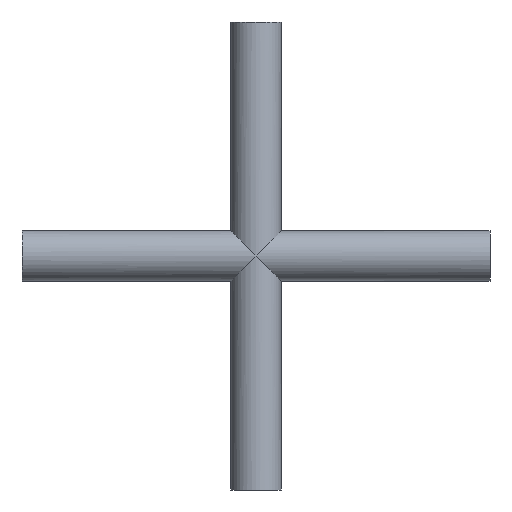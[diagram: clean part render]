
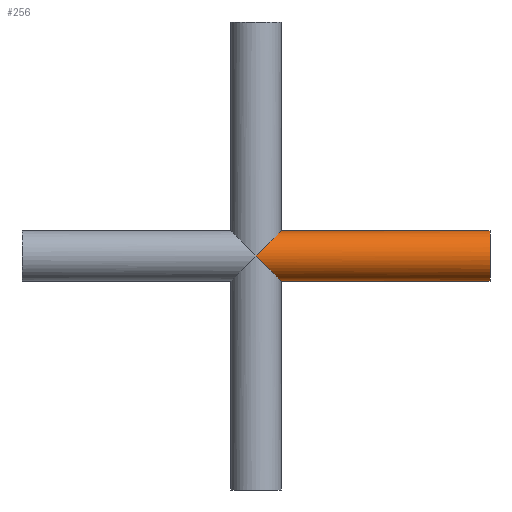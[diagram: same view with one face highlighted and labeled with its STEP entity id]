
A CAD part, front view. The second image highlights one B-rep face of the part: STEP entity #256.
In plain terms, the highlighted cylindrical face has radius 4.763 mm (diameter 9.525 mm), a partial arc.
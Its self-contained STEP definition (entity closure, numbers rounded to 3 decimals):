
#13 = CYLINDRICAL_SURFACE ( 'NONE', #574, 4.763 ) ;
#33 = CARTESIAN_POINT ( 'NONE',  ( 4.762, -2.79, 4.762 ) ) ;
#34 = VERTEX_POINT ( 'NONE', #644 ) ;
#35 = CARTESIAN_POINT ( 'NONE',  ( 4.763, 0., 4.763 ) ) ;
#66 = CARTESIAN_POINT ( 'NONE',  ( -44.45, 0., 4.763 ) ) ;
#69 = DIRECTION ( 'NONE',  ( 1., 0., 0. ) ) ;
#70 = EDGE_CURVE ( 'NONE', #211, #34, #83, .T. ) ;
#83 =( BOUNDED_CURVE ( )  B_SPLINE_CURVE ( 3, ( #35, #33, #259, #93 ),
 .UNSPECIFIED., .F., .F. ) 
 B_SPLINE_CURVE_WITH_KNOTS ( ( 4, 4 ),
 ( 0., 1.571 ),
 .UNSPECIFIED. ) 
 CURVE ( )  GEOMETRIC_REPRESENTATION_ITEM ( )  RATIONAL_B_SPLINE_CURVE ( ( 1., 0.805, 0.805, 1. ) ) 
 REPRESENTATION_ITEM ( '' )  );
#93 = CARTESIAN_POINT ( 'NONE',  ( 0., -4.762, 0. ) ) ;
#100 = FACE_OUTER_BOUND ( 'NONE', #210, .T. ) ;
#115 = ORIENTED_EDGE ( 'NONE', *, *, #624, .F. ) ;
#162 = DIRECTION ( 'NONE',  ( 1., 0., 0. ) ) ;
#171 = CARTESIAN_POINT ( 'NONE',  ( 44.45, 0., 0. ) ) ;
#172 = DIRECTION ( 'NONE',  ( 1., 0., 0. ) ) ;
#174 = VERTEX_POINT ( 'NONE', #187 ) ;
#175 = CIRCLE ( 'NONE', #387, 4.763 ) ;
#182 =( BOUNDED_CURVE ( )  B_SPLINE_CURVE ( 3, ( #309, #414, #441, #436 ),
 .UNSPECIFIED., .F., .T. ) 
 B_SPLINE_CURVE_WITH_KNOTS ( ( 4, 4 ),
 ( 0., 1.571 ),
 .UNSPECIFIED. ) 
 CURVE ( )  GEOMETRIC_REPRESENTATION_ITEM ( )  RATIONAL_B_SPLINE_CURVE ( ( 1., 0.805, 0.805, 1. ) ) 
 REPRESENTATION_ITEM ( '' )  );
#187 = CARTESIAN_POINT ( 'NONE',  ( 44.45, 0., 4.763 ) ) ;
#192 = CARTESIAN_POINT ( 'NONE',  ( 4.763, 0., 4.763 ) ) ;
#208 = ORIENTED_EDGE ( 'NONE', *, *, #475, .F. ) ;
#210 = EDGE_LOOP ( 'NONE', ( #208, #291, #115, #594, #437 ) ) ;
#211 = VERTEX_POINT ( 'NONE', #192 ) ;
#216 = VECTOR ( 'NONE', #162, 1000. ) ;
#253 = VERTEX_POINT ( 'NONE', #561 ) ;
#256 = ADVANCED_FACE ( 'NONE', ( #100 ), #13, .T. ) ;
#259 = CARTESIAN_POINT ( 'NONE',  ( 2.79, -4.763, 2.79 ) ) ;
#291 = ORIENTED_EDGE ( 'NONE', *, *, #70, .T. ) ;
#309 = CARTESIAN_POINT ( 'NONE',  ( 4.763, 0., -4.763 ) ) ;
#313 = DIRECTION ( 'NONE',  ( 0., 0., -1. ) ) ;
#362 = EDGE_CURVE ( 'NONE', #615, #253, #569, .T. ) ;
#365 = DIRECTION ( 'NONE',  ( -1., 0., 0. ) ) ;
#368 = CARTESIAN_POINT ( 'NONE',  ( -44.45, 0., -4.763 ) ) ;
#387 = AXIS2_PLACEMENT_3D ( 'NONE', #171, #365, #643 ) ;
#414 = CARTESIAN_POINT ( 'NONE',  ( 4.762, -2.79, -4.762 ) ) ;
#436 = CARTESIAN_POINT ( 'NONE',  ( 0., -4.762, 0. ) ) ;
#437 = ORIENTED_EDGE ( 'NONE', *, *, #601, .T. ) ;
#441 = CARTESIAN_POINT ( 'NONE',  ( 2.79, -4.763, -2.79 ) ) ;
#451 = VECTOR ( 'NONE', #69, 1000. ) ;
#475 = EDGE_CURVE ( 'NONE', #211, #174, #501, .T. ) ;
#501 = LINE ( 'NONE', #66, #216 ) ;
#561 = CARTESIAN_POINT ( 'NONE',  ( 44.45, 0., -4.763 ) ) ;
#569 = LINE ( 'NONE', #368, #451 ) ;
#574 = AXIS2_PLACEMENT_3D ( 'NONE', #581, #172, #313 ) ;
#581 = CARTESIAN_POINT ( 'NONE',  ( -44.45, 0., 0. ) ) ;
#594 = ORIENTED_EDGE ( 'NONE', *, *, #362, .T. ) ;
#601 = EDGE_CURVE ( 'NONE', #253, #174, #175, .T. ) ;
#615 = VERTEX_POINT ( 'NONE', #629 ) ;
#624 = EDGE_CURVE ( 'NONE', #615, #34, #182, .T. ) ;
#629 = CARTESIAN_POINT ( 'NONE',  ( 4.763, 0., -4.763 ) ) ;
#643 = DIRECTION ( 'NONE',  ( 0., 0., -1. ) ) ;
#644 = CARTESIAN_POINT ( 'NONE',  ( 0., -4.762, 0. ) ) ;
